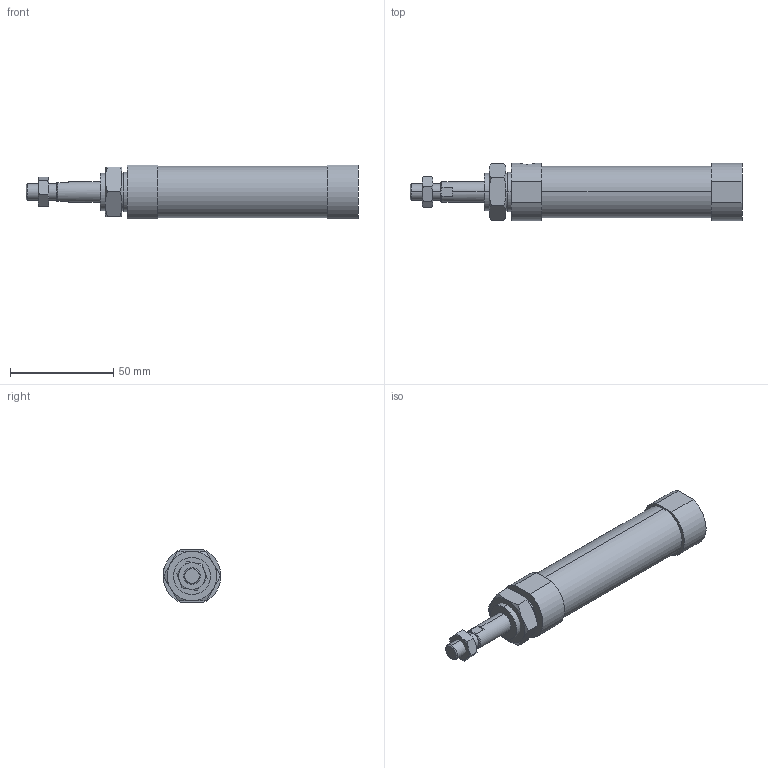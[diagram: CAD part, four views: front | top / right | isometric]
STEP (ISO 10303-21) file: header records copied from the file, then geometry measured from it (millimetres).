
FILE_DESCRIPTION (( 'STEP AP203' ), '1' );
FILE_NAME ('JGND0-20-15-N.STEP', '2016-08-04T02:02:57', ( '' ), ( '' ), 'SwSTEP 2.0', 'SolidWorks 2014', '' );
FILE_SCHEMA (( 'CONFIG_CONTROL_DESIGN' ));
Length unit declared in the file: millimetre
Products named in the file (4): JGND0-20-15-N; J#0-20-15(P)
Assembly tree (3 placements, depth 2):
  JGND0-20-15-N
    J#0-20-15(P)
    (unnamed)
    (unnamed)
Bounding box: 161 x 28 x 26 mm (x, y, z)
Volume: 66077.2 mm3; surface area: 14757.6 mm2
Topology: 3 solids, 3 shells, 81 faces, 176 edges, 108 vertices
Faces by surface type: plane 33, torus 24, cylinder 20, cone 4
Entity records: 2900 total; most frequent: CARTESIAN_POINT 761, DIRECTION 366, ORIENTED_EDGE 352, EDGE_CURVE 176, AXIS2_PLACEMENT_3D 157, VERTEX_POINT 108, EDGE_LOOP 92, ADVANCED_FACE 81
